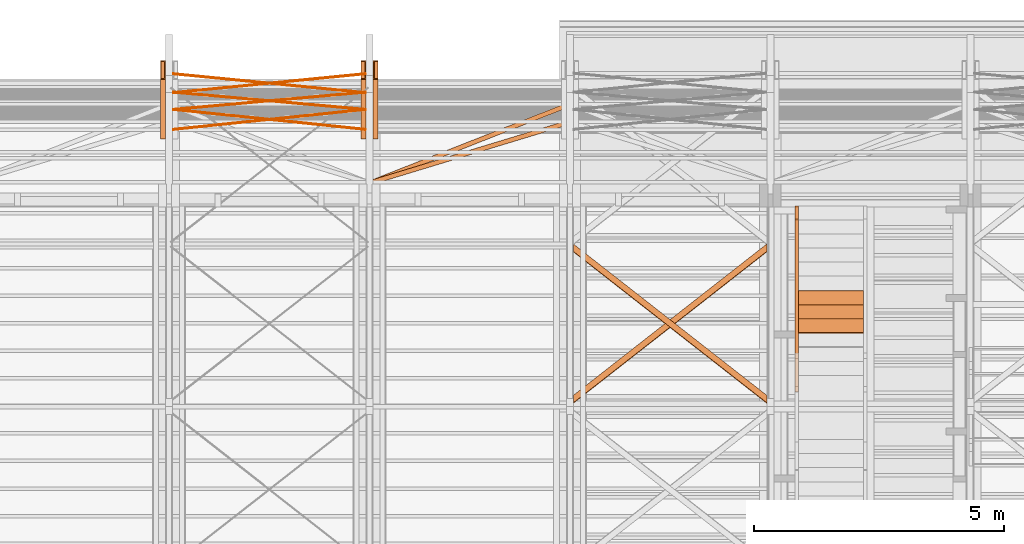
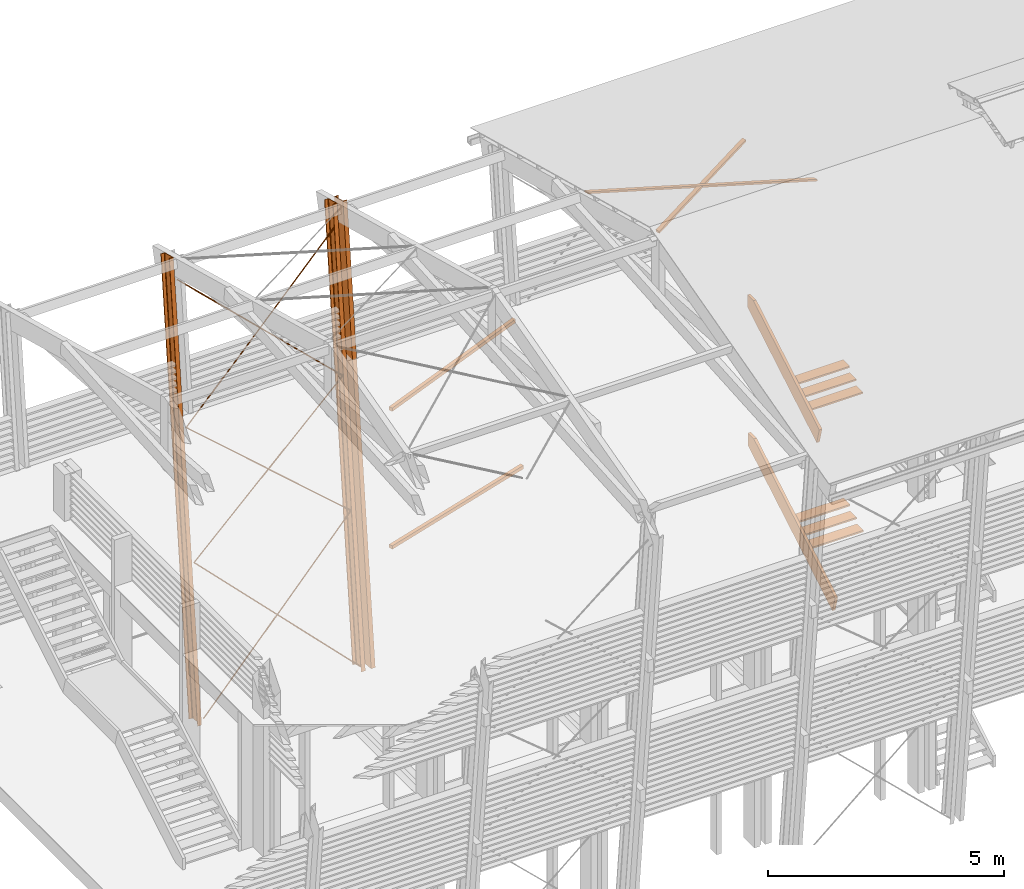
# One storey, part 40 of 48: 21 proxies.
"""IFC2X3 building model written with IfcOpenShell, lengths in metres."""

from ifc_helpers import new_model, si_unit, direction, frame, origin_with_axes, place, context, subcontext, project, spatial, faceted_brep, material, element, save


model = new_model("IFC2X3")

# Units and contexts
model_context = context("Model", 3, precision=1e-06, world=origin_with_axes(), true_north=direction((0.0, 1.0, 0.0)))
body_context = subcontext(model_context, "Body", "Model", "MODEL_VIEW")
ifc_project = project(units=[si_unit("LENGTHUNIT", "METRE"), si_unit("AREAUNIT", "SQUARE_METRE"), si_unit("VOLUMEUNIT", "CUBIC_METRE"), si_unit("PLANEANGLEUNIT", "RADIAN")], contexts=[model_context])

# Site, building, storey
site_placement = place(None, origin_with_axes())
site = spatial("IfcSite", under=ifc_project, at=site_placement, CompositionType="ELEMENT")
building_placement = place(site_placement, origin_with_axes())
building = spatial("IfcBuilding", under=site, at=building_placement, Name="Building 1", CompositionType="ELEMENT")
storey_placement = place(building_placement, origin_with_axes())
storey = spatial("IfcBuildingStorey", under=building, at=storey_placement, Name="Storey 1", CompositionType="ELEMENT", Elevation=0.0)

# Proxies
ifc_material_1 = material(Name="Acier")
proxy_1_placement = place(storey_placement, frame((29.5737441, -183.677965, 0.3), z_axis=(-0.7050562, 0.0741265, 0.7052666), x_axis=(0.7091514, 0.0736984, 0.7011938)))
element("IfcBuildingElementProxy", 1, at=proxy_1_placement, inside=storey, material=ifc_material_1, Name="CVLP", context=body_context, shape_type="Brep", body=[
    faceted_brep([(5.4036414, 0.0093969, -0.0034202), (0.0, 0.01, 0.0), (5.4036414, 0.01, 0.0), (0.0, 0.0093969, 0.0034202), (5.4036414, 0.0093969, 0.0034202), (0.0, 0.0076604, 0.0064279), (5.4036414, 0.0076604, 0.0064279), (0.0, 0.005, 0.0086603), (5.4036414, 0.005, 0.0086603), (0.0, 0.0017365, 0.0098481), (5.4036414, 0.0017365, 0.0098481), (0.0, -0.0017365, 0.0098481), (5.4036414, -0.0017365, 0.0098481), (0.0, -0.005, 0.0086603), (5.4036414, -0.005, 0.0086603), (0.0, -0.0076604, 0.0064279), (5.4036414, -0.0076604, 0.0064279), (0.0, -0.0093969, 0.0034202), (5.4036414, -0.0093969, 0.0034202), (0.0, -0.01, 0.0), (5.4036414, -0.01, 0.0), (0.0, -0.0093969, -0.0034202), (5.4036414, -0.0093969, -0.0034202), (0.0, -0.0076604, -0.0064279), (5.4036414, -0.0076604, -0.0064279), (0.0, -0.005, -0.0086603), (5.4036414, -0.005, -0.0086603), (0.0, -0.0017365, -0.0098481), (5.4036414, -0.0017365, -0.0098481), (0.0, 0.0017365, -0.0098481), (5.4036414, 0.0017365, -0.0098481), (0.0, 0.005, -0.0086603), (5.4036414, 0.005, -0.0086603), (0.0, 0.0076604, -0.0064279), (5.4036414, 0.0076604, -0.0064279), (0.0, 0.0093969, -0.0034202)], [[[0, 1, 2]], [[2, 1, 3]], [[2, 3, 4]], [[4, 3, 5]], [[4, 5, 6]], [[6, 5, 7]], [[6, 7, 8]], [[8, 7, 9]], [[8, 9, 10]], [[10, 9, 11]], [[10, 11, 12]], [[12, 11, 13]], [[12, 13, 14]], [[14, 13, 15]], [[14, 15, 16]], [[16, 15, 17]], [[16, 17, 18]], [[18, 17, 19]], [[18, 19, 20]], [[20, 19, 21]], [[20, 21, 22]], [[22, 21, 23]], [[22, 23, 24]], [[24, 23, 25]], [[24, 25, 26]], [[26, 25, 27]], [[26, 27, 28]], [[28, 27, 29]], [[28, 29, 30]], [[30, 29, 31]], [[30, 31, 32]], [[32, 31, 33]], [[32, 33, 34]], [[34, 33, 35]], [[34, 35, 0]], [[0, 35, 1]], [[10, 12, 8]], [[8, 12, 14]], [[8, 14, 6]], [[6, 14, 16]], [[6, 16, 4]], [[4, 16, 18]], [[4, 18, 2]], [[2, 18, 20]], [[2, 20, 0]], [[0, 20, 22]], [[0, 22, 34]], [[34, 22, 24]], [[34, 24, 32]], [[32, 24, 26]], [[32, 26, 30]], [[30, 26, 28]], [[29, 27, 31]], [[31, 27, 25]], [[31, 25, 33]], [[33, 25, 23]], [[33, 23, 35]], [[35, 23, 21]], [[35, 21, 1]], [[1, 21, 19]], [[1, 19, 3]], [[3, 19, 17]], [[3, 17, 5]], [[5, 17, 15]], [[5, 15, 7]], [[7, 15, 13]], [[7, 13, 9]], [[9, 13, 11]]]),
])
proxy_2_placement = place(storey_placement, frame((33.4057433, -182.9449284, 7.3700453), z_axis=(0.6859491, 0.0760601, 0.7236634), x_axis=(-0.7276496, 0.0717012, 0.6821914)))
element("IfcBuildingElementProxy", 2, at=proxy_2_placement, inside=storey, material=ifc_material_1, Name="CVLP", context=body_context, shape_type="Brep", body=[
    faceted_brep([(5.2662712, -0.0093969, 0.0034202), (0.0, -0.01, 0.0), (5.2662712, -0.01, 0.0), (0.0, -0.0093969, -0.0034202), (5.2662712, -0.0093969, -0.0034202), (0.0, -0.0076604, -0.0064279), (5.2662712, -0.0076604, -0.0064279), (0.0, -0.005, -0.0086603), (5.2662712, -0.005, -0.0086603), (0.0, -0.0017365, -0.0098481), (5.2662712, -0.0017365, -0.0098481), (0.0, 0.0017365, -0.0098481), (5.2662712, 0.0017365, -0.0098481), (0.0, 0.005, -0.0086603), (5.2662712, 0.005, -0.0086603), (0.0, 0.0076604, -0.0064279), (5.2662712, 0.0076604, -0.0064279), (0.0, 0.0093969, -0.0034202), (5.2662712, 0.0093969, -0.0034202), (0.0, 0.01, 0.0), (5.2662712, 0.01, 0.0), (0.0, 0.0093969, 0.0034202), (5.2662712, 0.0093969, 0.0034202), (0.0, 0.0076604, 0.0064279), (5.2662712, 0.0076604, 0.0064279), (0.0, 0.005, 0.0086603), (5.2662712, 0.005, 0.0086603), (0.0, 0.0017365, 0.0098481), (5.2662712, 0.0017365, 0.0098481), (0.0, -0.0017365, 0.0098481), (5.2662712, -0.0017365, 0.0098481), (0.0, -0.005, 0.0086603), (5.2662712, -0.005, 0.0086603), (0.0, -0.0076604, 0.0064279), (5.2662712, -0.0076604, 0.0064279), (0.0, -0.0093969, 0.0034202)], [[[0, 1, 2]], [[2, 1, 3]], [[2, 3, 4]], [[4, 3, 5]], [[4, 5, 6]], [[6, 5, 7]], [[6, 7, 8]], [[8, 7, 9]], [[8, 9, 10]], [[10, 9, 11]], [[10, 11, 12]], [[12, 11, 13]], [[12, 13, 14]], [[14, 13, 15]], [[14, 15, 16]], [[16, 15, 17]], [[16, 17, 18]], [[18, 17, 19]], [[18, 19, 20]], [[20, 19, 21]], [[20, 21, 22]], [[22, 21, 23]], [[22, 23, 24]], [[24, 23, 25]], [[24, 25, 26]], [[26, 25, 27]], [[26, 27, 28]], [[28, 27, 29]], [[28, 29, 30]], [[30, 29, 31]], [[30, 31, 32]], [[32, 31, 33]], [[32, 33, 34]], [[34, 33, 35]], [[34, 35, 0]], [[0, 35, 1]], [[10, 12, 8]], [[8, 12, 14]], [[8, 14, 6]], [[6, 14, 16]], [[6, 16, 4]], [[4, 16, 18]], [[4, 18, 2]], [[2, 18, 20]], [[2, 20, 0]], [[0, 20, 22]], [[0, 22, 34]], [[34, 22, 24]], [[34, 24, 32]], [[32, 24, 26]], [[32, 26, 30]], [[30, 26, 28]], [[29, 27, 31]], [[31, 27, 25]], [[31, 25, 33]], [[33, 25, 23]], [[33, 23, 35]], [[35, 23, 21]], [[35, 21, 1]], [[1, 21, 19]], [[1, 19, 3]], [[3, 19, 17]], [[3, 17, 5]], [[5, 17, 15]], [[5, 15, 7]], [[7, 15, 13]], [[7, 13, 9]], [[9, 13, 11]]]),
])
proxy_3_placement = place(storey_placement, frame((29.5737433, -183.279725, 4.089), z_axis=(-0.6523288, 0.0792259, 0.753784), x_axis=(0.7579361, 0.0681869, 0.6487553)))
element("IfcBuildingElementProxy", 3, at=proxy_3_placement, inside=storey, material=ifc_material_1, Name="CVLP", context=body_context, shape_type="Brep", body=[
    faceted_brep([(5.0558353, -0.0093969, 0.0034202), (0.0, -0.01, 0.0), (5.0558353, -0.01, 0.0), (0.0, -0.0093969, -0.0034202), (5.0558353, -0.0093969, -0.0034202), (0.0, -0.0076604, -0.0064279), (5.0558353, -0.0076604, -0.0064279), (0.0, -0.005, -0.0086603), (5.0558353, -0.005, -0.0086603), (0.0, -0.0017365, -0.0098481), (5.0558353, -0.0017365, -0.0098481), (0.0, 0.0017365, -0.0098481), (5.0558353, 0.0017365, -0.0098481), (0.0, 0.005, -0.0086603), (5.0558353, 0.005, -0.0086603), (0.0, 0.0076604, -0.0064279), (5.0558353, 0.0076604, -0.0064279), (0.0, 0.0093969, -0.0034202), (5.0558353, 0.0093969, -0.0034202), (0.0, 0.01, 0.0), (5.0558353, 0.01, 0.0), (0.0, 0.0093969, 0.0034202), (5.0558353, 0.0093969, 0.0034202), (0.0, 0.0076604, 0.0064279), (5.0558353, 0.0076604, 0.0064279), (0.0, 0.005, 0.0086603), (5.0558353, 0.005, 0.0086603), (0.0, 0.0017365, 0.0098481), (5.0558353, 0.0017365, 0.0098481), (0.0, -0.0017365, 0.0098481), (5.0558353, -0.0017365, 0.0098481), (0.0, -0.005, 0.0086603), (5.0558353, -0.005, 0.0086603), (0.0, -0.0076604, 0.0064279), (5.0558353, -0.0076604, 0.0064279), (0.0, -0.0093969, 0.0034202)], [[[0, 1, 2]], [[2, 1, 3]], [[2, 3, 4]], [[4, 3, 5]], [[4, 5, 6]], [[6, 5, 7]], [[6, 7, 8]], [[8, 7, 9]], [[8, 9, 10]], [[10, 9, 11]], [[10, 11, 12]], [[12, 11, 13]], [[12, 13, 14]], [[14, 13, 15]], [[14, 15, 16]], [[16, 15, 17]], [[16, 17, 18]], [[18, 17, 19]], [[18, 19, 20]], [[20, 19, 21]], [[20, 21, 22]], [[22, 21, 23]], [[22, 23, 24]], [[24, 23, 25]], [[24, 25, 26]], [[26, 25, 27]], [[26, 27, 28]], [[28, 27, 29]], [[28, 29, 30]], [[30, 29, 31]], [[30, 31, 32]], [[32, 31, 33]], [[32, 33, 34]], [[34, 33, 35]], [[34, 35, 0]], [[0, 35, 1]], [[10, 12, 8]], [[8, 12, 14]], [[8, 14, 6]], [[6, 14, 16]], [[6, 16, 4]], [[4, 16, 18]], [[4, 18, 2]], [[2, 18, 20]], [[2, 20, 0]], [[0, 20, 22]], [[0, 22, 34]], [[34, 22, 24]], [[34, 24, 32]], [[32, 24, 26]], [[32, 26, 30]], [[30, 26, 28]], [[29, 27, 31]], [[31, 27, 25]], [[31, 25, 33]], [[33, 25, 23]], [[33, 23, 35]], [[35, 23, 21]], [[35, 21, 1]], [[1, 21, 19]], [[1, 19, 3]], [[3, 19, 17]], [[3, 17, 5]], [[5, 17, 15]], [[5, 15, 7]], [[7, 15, 13]], [[7, 13, 9]], [[9, 13, 11]]]),
])
proxy_4_placement = place(storey_placement, frame((33.4057433, -183.677965, 0.3), z_axis=(0.7050562, 0.0741265, 0.7052666), x_axis=(-0.7091514, 0.0736984, 0.7011938)))
element("IfcBuildingElementProxy", 4, at=proxy_4_placement, inside=storey, material=ifc_material_1, Name="CVLP", context=body_context, shape_type="Brep", body=[
    faceted_brep([(5.4036414, -0.0093969, 0.0034202), (0.0, -0.01, 0.0), (5.4036414, -0.01, 0.0), (0.0, -0.0093969, -0.0034202), (5.4036414, -0.0093969, -0.0034202), (0.0, -0.0076604, -0.0064279), (5.4036414, -0.0076604, -0.0064279), (0.0, -0.005, -0.0086603), (5.4036414, -0.005, -0.0086603), (0.0, -0.0017365, -0.0098481), (5.4036414, -0.0017365, -0.0098481), (0.0, 0.0017365, -0.0098481), (5.4036414, 0.0017365, -0.0098481), (0.0, 0.005, -0.0086603), (5.4036414, 0.005, -0.0086603), (0.0, 0.0076604, -0.0064279), (5.4036414, 0.0076604, -0.0064279), (0.0, 0.0093969, -0.0034202), (5.4036414, 0.0093969, -0.0034202), (0.0, 0.01, 0.0), (5.4036414, 0.01, 0.0), (0.0, 0.0093969, 0.0034202), (5.4036414, 0.0093969, 0.0034202), (0.0, 0.0076604, 0.0064279), (5.4036414, 0.0076604, 0.0064279), (0.0, 0.005, 0.0086603), (5.4036414, 0.005, 0.0086603), (0.0, 0.0017365, 0.0098481), (5.4036414, 0.0017365, 0.0098481), (0.0, -0.0017365, 0.0098481), (5.4036414, -0.0017365, 0.0098481), (0.0, -0.005, 0.0086603), (5.4036414, -0.005, 0.0086603), (0.0, -0.0076604, 0.0064279), (5.4036414, -0.0076604, 0.0064279), (0.0, -0.0093969, 0.0034202)], [[[0, 1, 2]], [[2, 1, 3]], [[2, 3, 4]], [[4, 3, 5]], [[4, 5, 6]], [[6, 5, 7]], [[6, 7, 8]], [[8, 7, 9]], [[8, 9, 10]], [[10, 9, 11]], [[10, 11, 12]], [[12, 11, 13]], [[12, 13, 14]], [[14, 13, 15]], [[14, 15, 16]], [[16, 15, 17]], [[16, 17, 18]], [[18, 17, 19]], [[18, 19, 20]], [[20, 19, 21]], [[20, 21, 22]], [[22, 21, 23]], [[22, 23, 24]], [[24, 23, 25]], [[24, 25, 26]], [[26, 25, 27]], [[26, 27, 28]], [[28, 27, 29]], [[28, 29, 30]], [[30, 29, 31]], [[30, 31, 32]], [[32, 31, 33]], [[32, 33, 34]], [[34, 33, 35]], [[34, 35, 0]], [[0, 35, 1]], [[10, 12, 8]], [[8, 12, 14]], [[8, 14, 6]], [[6, 14, 16]], [[6, 16, 4]], [[4, 16, 18]], [[4, 18, 2]], [[2, 18, 20]], [[2, 20, 0]], [[0, 20, 22]], [[0, 22, 34]], [[34, 22, 24]], [[34, 24, 32]], [[32, 24, 26]], [[32, 26, 30]], [[30, 26, 28]], [[29, 27, 31]], [[31, 27, 25]], [[31, 25, 33]], [[33, 25, 23]], [[33, 23, 35]], [[35, 23, 21]], [[35, 21, 1]], [[1, 21, 19]], [[1, 19, 3]], [[3, 19, 17]], [[3, 17, 5]], [[5, 17, 15]], [[5, 15, 7]], [[7, 15, 13]], [[7, 13, 9]], [[9, 13, 11]]]),
])
proxy_5_placement = place(storey_placement, frame((29.5737441, -182.9449284, 7.3700453), z_axis=(-0.6859491, 0.0760601, 0.7236634), x_axis=(0.7276496, 0.0717012, 0.6821914)))
element("IfcBuildingElementProxy", 5, at=proxy_5_placement, inside=storey, material=ifc_material_1, Name="CVLP", context=body_context, shape_type="Brep", body=[
    faceted_brep([(5.2662712, 0.0093969, -0.0034202), (0.0, 0.01, 0.0), (5.2662712, 0.01, 0.0), (0.0, 0.0093969, 0.0034202), (5.2662712, 0.0093969, 0.0034202), (0.0, 0.0076604, 0.0064279), (5.2662712, 0.0076604, 0.0064279), (0.0, 0.005, 0.0086603), (5.2662712, 0.005, 0.0086603), (0.0, 0.0017365, 0.0098481), (5.2662712, 0.0017365, 0.0098481), (0.0, -0.0017365, 0.0098481), (5.2662712, -0.0017365, 0.0098481), (0.0, -0.005, 0.0086603), (5.2662712, -0.005, 0.0086603), (0.0, -0.0076604, 0.0064279), (5.2662712, -0.0076604, 0.0064279), (0.0, -0.0093969, 0.0034202), (5.2662712, -0.0093969, 0.0034202), (0.0, -0.01, 0.0), (5.2662712, -0.01, 0.0), (0.0, -0.0093969, -0.0034202), (5.2662712, -0.0093969, -0.0034202), (0.0, -0.0076604, -0.0064279), (5.2662712, -0.0076604, -0.0064279), (0.0, -0.005, -0.0086603), (5.2662712, -0.005, -0.0086603), (0.0, -0.0017365, -0.0098481), (5.2662712, -0.0017365, -0.0098481), (0.0, 0.0017365, -0.0098481), (5.2662712, 0.0017365, -0.0098481), (0.0, 0.005, -0.0086603), (5.2662712, 0.005, -0.0086603), (0.0, 0.0076604, -0.0064279), (5.2662712, 0.0076604, -0.0064279), (0.0, 0.0093969, -0.0034202)], [[[0, 1, 2]], [[2, 1, 3]], [[2, 3, 4]], [[4, 3, 5]], [[4, 5, 6]], [[6, 5, 7]], [[6, 7, 8]], [[8, 7, 9]], [[8, 9, 10]], [[10, 9, 11]], [[10, 11, 12]], [[12, 11, 13]], [[12, 13, 14]], [[14, 13, 15]], [[14, 15, 16]], [[16, 15, 17]], [[16, 17, 18]], [[18, 17, 19]], [[18, 19, 20]], [[20, 19, 21]], [[20, 21, 22]], [[22, 21, 23]], [[22, 23, 24]], [[24, 23, 25]], [[24, 25, 26]], [[26, 25, 27]], [[26, 27, 28]], [[28, 27, 29]], [[28, 29, 30]], [[30, 29, 31]], [[30, 31, 32]], [[32, 31, 33]], [[32, 33, 34]], [[34, 33, 35]], [[34, 35, 0]], [[0, 35, 1]], [[10, 12, 8]], [[8, 12, 14]], [[8, 14, 6]], [[6, 14, 16]], [[6, 16, 4]], [[4, 16, 18]], [[4, 18, 2]], [[2, 18, 20]], [[2, 20, 0]], [[0, 20, 22]], [[0, 22, 34]], [[34, 22, 24]], [[34, 24, 32]], [[32, 24, 26]], [[32, 26, 30]], [[30, 26, 28]], [[29, 27, 31]], [[31, 27, 25]], [[31, 25, 33]], [[33, 25, 23]], [[33, 23, 35]], [[35, 23, 21]], [[35, 21, 1]], [[1, 21, 19]], [[1, 19, 3]], [[3, 19, 17]], [[3, 17, 5]], [[5, 17, 15]], [[5, 15, 7]], [[7, 15, 13]], [[7, 13, 9]], [[9, 13, 11]]]),
])
proxy_6_placement = place(storey_placement, frame((33.4057441, -183.279725, 4.089), z_axis=(0.6523288, 0.0792259, 0.753784), x_axis=(-0.7579361, 0.0681869, 0.6487553)))
element("IfcBuildingElementProxy", 6, at=proxy_6_placement, inside=storey, material=ifc_material_1, Name="CVLP", context=body_context, shape_type="Brep", body=[
    faceted_brep([(5.0558353, 0.0093969, -0.0034202), (0.0, 0.01, 0.0), (5.0558353, 0.01, 0.0), (0.0, 0.0093969, 0.0034202), (5.0558353, 0.0093969, 0.0034202), (0.0, 0.0076604, 0.0064279), (5.0558353, 0.0076604, 0.0064279), (0.0, 0.005, 0.0086603), (5.0558353, 0.005, 0.0086603), (0.0, 0.0017365, 0.0098481), (5.0558353, 0.0017365, 0.0098481), (0.0, -0.0017365, 0.0098481), (5.0558353, -0.0017365, 0.0098481), (0.0, -0.005, 0.0086603), (5.0558353, -0.005, 0.0086603), (0.0, -0.0076604, 0.0064279), (5.0558353, -0.0076604, 0.0064279), (0.0, -0.0093969, 0.0034202), (5.0558353, -0.0093969, 0.0034202), (0.0, -0.01, 0.0), (5.0558353, -0.01, 0.0), (0.0, -0.0093969, -0.0034202), (5.0558353, -0.0093969, -0.0034202), (0.0, -0.0076604, -0.0064279), (5.0558353, -0.0076604, -0.0064279), (0.0, -0.005, -0.0086603), (5.0558353, -0.005, -0.0086603), (0.0, -0.0017365, -0.0098481), (5.0558353, -0.0017365, -0.0098481), (0.0, 0.0017365, -0.0098481), (5.0558353, 0.0017365, -0.0098481), (0.0, 0.005, -0.0086603), (5.0558353, 0.005, -0.0086603), (0.0, 0.0076604, -0.0064279), (5.0558353, 0.0076604, -0.0064279), (0.0, 0.0093969, -0.0034202)], [[[0, 1, 2]], [[2, 1, 3]], [[2, 3, 4]], [[4, 3, 5]], [[4, 5, 6]], [[6, 5, 7]], [[6, 7, 8]], [[8, 7, 9]], [[8, 9, 10]], [[10, 9, 11]], [[10, 11, 12]], [[12, 11, 13]], [[12, 13, 14]], [[14, 13, 15]], [[14, 15, 16]], [[16, 15, 17]], [[16, 17, 18]], [[18, 17, 19]], [[18, 19, 20]], [[20, 19, 21]], [[20, 21, 22]], [[22, 21, 23]], [[22, 23, 24]], [[24, 23, 25]], [[24, 25, 26]], [[26, 25, 27]], [[26, 27, 28]], [[28, 27, 29]], [[28, 29, 30]], [[30, 29, 31]], [[30, 31, 32]], [[32, 31, 33]], [[32, 33, 34]], [[34, 33, 35]], [[34, 35, 0]], [[0, 35, 1]], [[10, 12, 8]], [[8, 12, 14]], [[8, 14, 6]], [[6, 14, 16]], [[6, 16, 4]], [[4, 16, 18]], [[4, 18, 2]], [[2, 18, 20]], [[2, 20, 0]], [[0, 20, 22]], [[0, 22, 34]], [[34, 22, 24]], [[34, 24, 32]], [[32, 24, 26]], [[32, 26, 30]], [[30, 26, 28]], [[29, 27, 31]], [[31, 27, 25]], [[31, 25, 33]], [[33, 25, 23]], [[33, 23, 35]], [[35, 23, 21]], [[35, 21, 1]], [[1, 21, 19]], [[1, 19, 3]], [[3, 19, 17]], [[3, 17, 5]], [[5, 17, 15]], [[5, 15, 7]], [[7, 15, 13]], [[7, 13, 9]], [[9, 13, 11]]]),
])
proxy_7_placement = place(storey_placement, frame((33.6107437, -182.4859924, 11.6408612), z_axis=(0.0, -0.9945219, 0.1045285), x_axis=(0.0, -0.1045285, -0.9945219)))
element("IfcBuildingElementProxy", 7, at=proxy_7_placement, inside=storey, material=ifc_material_1, Name="Poteau", context=body_context, shape_type="Brep", body=[
    faceted_brep([(0.0588262, 0.0506328, -0.181414), (0.0592057, 0.051, -0.18381), (0.0579402, 0.0433995, -0.17582), (0.0601861, 0.051, -0.19), (0.0574199, -0.022299, -0.172535), (0.0601861, -0.051, -0.19), (0.0572658, -0.0270483, -0.1715622), (0.0568935, -0.0312883, -0.1692116), (0.0045382, -0.0367655, 0.161347), (0.0052972, -0.0375, 0.156555), (0.0, -0.051, 0.19), (0.0548889, -0.0375, -0.156555), (0.0556479, -0.0367655, -0.161347), (0.0563372, -0.0346296, -0.165699), (0.0009804, 0.051, 0.18381), (0.0022459, 0.0433995, 0.17582), (0.0, 0.051, 0.19), (0.0027662, -0.022299, 0.172535), (0.0029203, -0.0270483, 0.1715622), (0.0032926, -0.0312883, 0.1692116), (0.0013599, 0.0506328, 0.181414), (0.0017045, 0.0495648, 0.179238), (0.0019827, 0.0478941, 0.1774817), (0.0021689, 0.0457742, 0.1763064), (0.0038489, -0.0346296, 0.165699), (0.0580172, 0.0457742, -0.1763064), (0.0582034, 0.0478941, -0.1774817), (0.0584816, 0.0495648, -0.179238), (11.420672, 0.0433995, 0.17582), (11.420672, 0.0457742, 0.1763064), (11.420672, 0.0478941, 0.1774817), (11.420672, 0.0495648, 0.179238), (11.420672, 0.0506328, 0.181414), (11.420672, 0.051, 0.18381), (11.420672, 0.051, 0.19), (11.420672, -0.051, 0.19), (11.420672, -0.051, -0.19), (11.420672, 0.051, -0.19), (11.420672, 0.051, -0.18381), (11.420672, 0.0506328, -0.181414), (11.420672, 0.0495648, -0.179238), (11.420672, 0.0478941, -0.1774817), (11.420672, 0.0457742, -0.1763064), (11.420672, 0.0433995, -0.17582), (11.420672, -0.022299, -0.172535), (11.420672, -0.0270483, -0.1715622), (11.420672, -0.0312883, -0.1692116), (11.420672, -0.0346296, -0.165699), (11.420672, -0.0367655, -0.161347), (11.420672, -0.0375, -0.156555), (11.420672, -0.0375, 0.156555), (11.420672, -0.0367655, 0.161347), (11.420672, -0.0346296, 0.165699), (11.420672, -0.0312883, 0.1692116), (11.420672, -0.0270483, 0.1715622), (11.420672, -0.022299, 0.172535)], [[[0, 1, 2]], [[2, 1, 3]], [[2, 3, 4]], [[4, 3, 5]], [[4, 5, 6]], [[6, 5, 7]], [[8, 9, 10]], [[10, 9, 11]], [[10, 11, 5]], [[5, 11, 12]], [[5, 12, 13]], [[14, 15, 16]], [[16, 15, 17]], [[16, 17, 10]], [[10, 17, 18]], [[10, 18, 19]], [[14, 20, 15]], [[15, 20, 21]], [[15, 21, 22]], [[22, 23, 15]], [[19, 24, 10]], [[10, 24, 8]], [[13, 7, 5]], [[25, 26, 2]], [[2, 26, 27]], [[2, 27, 0]], [[15, 23, 28]], [[28, 23, 29]], [[23, 22, 29]], [[29, 22, 30]], [[22, 21, 30]], [[30, 21, 31]], [[21, 20, 31]], [[31, 20, 32]], [[20, 14, 32]], [[32, 14, 33]], [[16, 34, 14]], [[14, 34, 33]], [[10, 5, 35]], [[35, 5, 36]], [[5, 3, 36]], [[36, 3, 37]], [[1, 38, 3]], [[3, 38, 37]], [[1, 0, 38]], [[38, 0, 39]], [[0, 27, 39]], [[39, 27, 40]], [[27, 26, 40]], [[40, 26, 41]], [[26, 25, 41]], [[41, 25, 42]], [[25, 2, 42]], [[42, 2, 43]], [[4, 44, 2]], [[2, 44, 43]], [[4, 6, 44]], [[44, 6, 45]], [[6, 7, 45]], [[45, 7, 46]], [[7, 13, 46]], [[46, 13, 47]], [[13, 12, 47]], [[47, 12, 48]], [[12, 11, 48]], [[48, 11, 49]], [[9, 50, 11]], [[11, 50, 49]], [[9, 8, 50]], [[50, 8, 51]], [[8, 24, 51]], [[51, 24, 52]], [[24, 19, 52]], [[52, 19, 53]], [[19, 18, 53]], [[53, 18, 54]], [[18, 17, 54]], [[54, 17, 55]], [[15, 28, 17]], [[17, 28, 55]], [[35, 34, 10]], [[10, 34, 16]], [[48, 49, 36]], [[36, 49, 50]], [[36, 50, 35]], [[35, 50, 51]], [[35, 51, 52]], [[41, 42, 38]], [[38, 42, 43]], [[38, 43, 37]], [[37, 43, 44]], [[37, 44, 36]], [[36, 44, 45]], [[36, 45, 46]], [[39, 40, 38]], [[38, 40, 41]], [[46, 47, 36]], [[36, 47, 48]], [[52, 53, 35]], [[35, 53, 54]], [[35, 54, 55]], [[35, 55, 34]], [[34, 55, 28]], [[34, 28, 33]], [[33, 28, 32]], [[29, 30, 28]], [[28, 30, 31]], [[28, 31, 32]]]),
])
proxy_8_placement = place(storey_placement, frame((33.3687437, -182.4859924, 11.6408612), z_axis=(0.0, -0.9945219, 0.1045285), x_axis=(0.0, -0.1045285, -0.9945219)))
element("IfcBuildingElementProxy", 8, at=proxy_8_placement, inside=storey, material=ifc_material_1, Name="Poteau", context=body_context, shape_type="Brep", body=[
    faceted_brep([(0.0563372, 0.0346296, -0.165699), (0.0556479, 0.0367655, -0.161347), (0.0601861, 0.051, -0.19), (0.0548889, 0.0375, -0.156555), (0.0, 0.051, 0.19), (0.0052972, 0.0375, 0.156555), (0.0045382, 0.0367655, 0.161347), (0.0592057, -0.051, -0.18381), (0.0579402, -0.0433995, -0.17582), (0.0601861, -0.051, -0.19), (0.0574199, 0.022299, -0.172535), (0.0572658, 0.0270483, -0.1715622), (0.0568935, 0.0312883, -0.1692116), (0.0588262, -0.0506328, -0.181414), (0.0584816, -0.0495648, -0.179238), (0.0582034, -0.0478941, -0.1774817), (0.0580172, -0.0457742, -0.1763064), (0.0038489, 0.0346296, 0.165699), (0.0032926, 0.0312883, 0.1692116), (0.0029203, 0.0270483, 0.1715622), (0.0027662, 0.022299, 0.172535), (0.0, -0.051, 0.19), (0.0022459, -0.0433995, 0.17582), (0.0009804, -0.051, 0.18381), (0.0021689, -0.0457742, 0.1763064), (0.0019827, -0.0478941, 0.1774817), (0.0017045, -0.0495648, 0.179238), (0.0013599, -0.0506328, 0.181414), (11.420672, 0.0375, -0.156555), (11.420672, 0.0367655, -0.161347), (11.420672, 0.0346296, -0.165699), (11.420672, 0.0312883, -0.1692116), (11.420672, 0.0270483, -0.1715622), (11.420672, 0.022299, -0.172535), (11.420672, -0.0433995, -0.17582), (11.420672, -0.0457742, -0.1763064), (11.420672, -0.0478941, -0.1774817), (11.420672, -0.0495648, -0.179238), (11.420672, -0.0506328, -0.181414), (11.420672, -0.051, -0.18381), (11.420672, -0.051, -0.19), (11.420672, 0.051, -0.19), (11.420672, 0.051, 0.19), (11.420672, -0.051, 0.19), (11.420672, -0.051, 0.18381), (11.420672, -0.0506328, 0.181414), (11.420672, -0.0495648, 0.179238), (11.420672, -0.0478941, 0.1774817), (11.420672, -0.0457742, 0.1763064), (11.420672, -0.0433995, 0.17582), (11.420672, 0.022299, 0.172535), (11.420672, 0.0270483, 0.1715622), (11.420672, 0.0312883, 0.1692116), (11.420672, 0.0346296, 0.165699), (11.420672, 0.0367655, 0.161347), (11.420672, 0.0375, 0.156555)], [[[0, 1, 2]], [[2, 1, 3]], [[2, 3, 4]], [[4, 3, 5]], [[4, 5, 6]], [[7, 8, 9]], [[9, 8, 10]], [[9, 10, 2]], [[2, 10, 11]], [[2, 11, 12]], [[7, 13, 8]], [[8, 13, 14]], [[8, 14, 15]], [[15, 16, 8]], [[12, 0, 2]], [[6, 17, 4]], [[4, 17, 18]], [[4, 18, 19]], [[19, 20, 4]], [[4, 20, 21]], [[20, 22, 21]], [[21, 22, 23]], [[24, 25, 22]], [[22, 25, 26]], [[22, 26, 27]], [[27, 23, 22]], [[3, 1, 28]], [[28, 1, 29]], [[1, 0, 29]], [[29, 0, 30]], [[0, 12, 30]], [[30, 12, 31]], [[12, 11, 31]], [[31, 11, 32]], [[11, 10, 32]], [[32, 10, 33]], [[10, 8, 33]], [[33, 8, 34]], [[8, 16, 34]], [[34, 16, 35]], [[16, 15, 35]], [[35, 15, 36]], [[15, 14, 36]], [[36, 14, 37]], [[14, 13, 37]], [[37, 13, 38]], [[13, 7, 38]], [[38, 7, 39]], [[7, 9, 39]], [[39, 9, 40]], [[9, 2, 40]], [[40, 2, 41]], [[4, 42, 2]], [[2, 42, 41]], [[43, 42, 21]], [[21, 42, 4]], [[21, 23, 43]], [[43, 23, 44]], [[23, 27, 44]], [[44, 27, 45]], [[27, 26, 45]], [[45, 26, 46]], [[26, 25, 46]], [[46, 25, 47]], [[25, 24, 47]], [[47, 24, 48]], [[24, 22, 48]], [[48, 22, 49]], [[22, 20, 49]], [[49, 20, 50]], [[20, 19, 50]], [[50, 19, 51]], [[19, 18, 51]], [[51, 18, 52]], [[18, 17, 52]], [[52, 17, 53]], [[17, 6, 53]], [[53, 6, 54]], [[6, 5, 54]], [[54, 5, 55]], [[5, 3, 55]], [[55, 3, 28]], [[53, 54, 42]], [[42, 54, 55]], [[42, 55, 41]], [[41, 55, 28]], [[41, 28, 29]], [[44, 49, 43]], [[43, 49, 50]], [[43, 50, 42]], [[42, 50, 51]], [[42, 51, 52]], [[44, 45, 49]], [[49, 45, 46]], [[49, 46, 47]], [[47, 48, 49]], [[52, 53, 42]], [[29, 30, 41]], [[41, 30, 31]], [[41, 31, 32]], [[32, 33, 41]], [[41, 33, 40]], [[33, 34, 40]], [[40, 34, 39]], [[34, 35, 39]], [[39, 35, 36]], [[39, 36, 37]], [[37, 38, 39]]]),
])
proxy_9_placement = place(storey_placement, frame((29.3687437, -182.4859924, 11.6408612), z_axis=(0.0, -0.9945219, 0.1045285), x_axis=(0.0, -0.1045285, -0.9945219)))
element("IfcBuildingElementProxy", 9, at=proxy_9_placement, inside=storey, material=ifc_material_1, Name="Poteau", context=body_context, shape_type="Brep", body=[
    faceted_brep([(0.0563372, 0.0346296, -0.165699), (0.0556479, 0.0367655, -0.161347), (0.0601861, 0.051, -0.19), (0.0548889, 0.0375, -0.156555), (0.0, 0.051, 0.19), (0.0052972, 0.0375, 0.156555), (0.0045382, 0.0367655, 0.161347), (0.0592057, -0.051, -0.18381), (0.0579402, -0.0433995, -0.17582), (0.0601861, -0.051, -0.19), (0.0574199, 0.022299, -0.172535), (0.0572658, 0.0270483, -0.1715622), (0.0568935, 0.0312883, -0.1692116), (0.0588262, -0.0506328, -0.181414), (0.0584816, -0.0495648, -0.179238), (0.0582034, -0.0478941, -0.1774817), (0.0580172, -0.0457742, -0.1763064), (0.0038489, 0.0346296, 0.165699), (0.0032926, 0.0312883, 0.1692116), (0.0029203, 0.0270483, 0.1715622), (0.0027662, 0.022299, 0.172535), (0.0, -0.051, 0.19), (0.0022459, -0.0433995, 0.17582), (0.0009804, -0.051, 0.18381), (0.0021689, -0.0457742, 0.1763064), (0.0019827, -0.0478941, 0.1774817), (0.0017045, -0.0495648, 0.179238), (0.0013599, -0.0506328, 0.181414), (11.420672, 0.0375, -0.156555), (11.420672, 0.0367655, -0.161347), (11.420672, 0.0346296, -0.165699), (11.420672, 0.0312883, -0.1692116), (11.420672, 0.0270483, -0.1715622), (11.420672, 0.022299, -0.172535), (11.420672, -0.0433995, -0.17582), (11.420672, -0.0457742, -0.1763064), (11.420672, -0.0478941, -0.1774817), (11.420672, -0.0495648, -0.179238), (11.420672, -0.0506328, -0.181414), (11.420672, -0.051, -0.18381), (11.420672, -0.051, -0.19), (11.420672, 0.051, -0.19), (11.420672, 0.051, 0.19), (11.420672, -0.051, 0.19), (11.420672, -0.051, 0.18381), (11.420672, -0.0506328, 0.181414), (11.420672, -0.0495648, 0.179238), (11.420672, -0.0478941, 0.1774817), (11.420672, -0.0457742, 0.1763064), (11.420672, -0.0433995, 0.17582), (11.420672, 0.022299, 0.172535), (11.420672, 0.0270483, 0.1715622), (11.420672, 0.0312883, 0.1692116), (11.420672, 0.0346296, 0.165699), (11.420672, 0.0367655, 0.161347), (11.420672, 0.0375, 0.156555)], [[[0, 1, 2]], [[2, 1, 3]], [[2, 3, 4]], [[4, 3, 5]], [[4, 5, 6]], [[7, 8, 9]], [[9, 8, 10]], [[9, 10, 2]], [[2, 10, 11]], [[2, 11, 12]], [[7, 13, 8]], [[8, 13, 14]], [[8, 14, 15]], [[15, 16, 8]], [[12, 0, 2]], [[6, 17, 4]], [[4, 17, 18]], [[4, 18, 19]], [[19, 20, 4]], [[4, 20, 21]], [[20, 22, 21]], [[21, 22, 23]], [[24, 25, 22]], [[22, 25, 26]], [[22, 26, 27]], [[27, 23, 22]], [[3, 1, 28]], [[28, 1, 29]], [[1, 0, 29]], [[29, 0, 30]], [[0, 12, 30]], [[30, 12, 31]], [[12, 11, 31]], [[31, 11, 32]], [[11, 10, 32]], [[32, 10, 33]], [[10, 8, 33]], [[33, 8, 34]], [[8, 16, 34]], [[34, 16, 35]], [[16, 15, 35]], [[35, 15, 36]], [[15, 14, 36]], [[36, 14, 37]], [[14, 13, 37]], [[37, 13, 38]], [[13, 7, 38]], [[38, 7, 39]], [[7, 9, 39]], [[39, 9, 40]], [[9, 2, 40]], [[40, 2, 41]], [[4, 42, 2]], [[2, 42, 41]], [[43, 42, 21]], [[21, 42, 4]], [[21, 23, 43]], [[43, 23, 44]], [[23, 27, 44]], [[44, 27, 45]], [[27, 26, 45]], [[45, 26, 46]], [[26, 25, 46]], [[46, 25, 47]], [[25, 24, 47]], [[47, 24, 48]], [[24, 22, 48]], [[48, 22, 49]], [[22, 20, 49]], [[49, 20, 50]], [[20, 19, 50]], [[50, 19, 51]], [[19, 18, 51]], [[51, 18, 52]], [[18, 17, 52]], [[52, 17, 53]], [[17, 6, 53]], [[53, 6, 54]], [[6, 5, 54]], [[54, 5, 55]], [[5, 3, 55]], [[55, 3, 28]], [[53, 54, 42]], [[42, 54, 55]], [[42, 55, 41]], [[41, 55, 28]], [[41, 28, 29]], [[44, 49, 43]], [[43, 49, 50]], [[43, 50, 42]], [[42, 50, 51]], [[42, 51, 52]], [[44, 45, 49]], [[49, 45, 46]], [[49, 46, 47]], [[47, 48, 49]], [[52, 53, 42]], [[29, 30, 41]], [[41, 30, 31]], [[41, 31, 32]], [[32, 33, 41]], [[41, 33, 40]], [[33, 34, 40]], [[40, 34, 39]], [[34, 35, 39]], [[39, 35, 36]], [[39, 36, 37]], [[37, 38, 39]]]),
])
ifc_material_2 = material(Name="Moabi")
for number, where, z_axis, x_axis, name in (
    (10, (42.6997437, -187.3064881, 6.49), (0.0, 1.0, 0.0), (0.0, 0.0, 1.0), "marche"),
    (11, (42.6997437, -187.5864881, 6.325), (0.0, 1.0, 0.0), (0.0, 0.0, 1.0), "marche"),
):
    element("IfcBuildingElementProxy", number, at=place(storey_placement, frame(where, z_axis=z_axis, x_axis=x_axis)), inside=storey, material=ifc_material_2, Name=name, context=body_context, shape_type="Brep", body=[
        faceted_brep([(0.04, 0.65, 0.14), (0.04, 0.65, -0.14), (0.0, 0.65, -0.14), (0.0, 0.65, 0.14), (0.04, -0.65, -0.14), (0.0, -0.65, -0.14), (0.04, -0.65, 0.14), (0.0, -0.65, 0.14)], [[[0, 1, 2, 3]], [[1, 4, 5, 2]], [[4, 6, 7, 5]], [[6, 0, 3, 7]], [[1, 0, 6, 4]], [[7, 3, 2, 5]]]),
    ])
proxy_10_placement = place(storey_placement, frame((43.3497437, -187.0264881, 6.675), z_axis=(0.0, 1.0, 0.0), x_axis=(-1.0, 0.0, 0.0)))
element("IfcBuildingElementProxy", 12, at=proxy_10_placement, inside=storey, material=ifc_material_2, Name="marche", context=body_context, shape_type="Brep", body=[
    faceted_brep([(0.0, 0.02, 0.14), (0.0, 0.02, -0.14), (0.0, -0.02, -0.14), (0.0, -0.02, 0.14), (1.3, 0.02, -0.14), (1.3, -0.02, -0.14), (1.3, 0.02, 0.14), (1.3, -0.02, 0.14)], [[[0, 1, 2, 3]], [[1, 4, 5, 2]], [[4, 6, 7, 5]], [[6, 0, 3, 7]], [[1, 0, 6, 4]], [[7, 3, 2, 5]]]),
])
ifc_material_3 = material(Name="GL28h")
proxy_11_placement = place(storey_placement, frame((42.0147437, -188.2443902, 5.9573077), z_axis=(0.0, -0.5076923, 0.8615385), x_axis=(0.0, 0.8615385, 0.5076923)))
element("IfcBuildingElementProxy", 13, at=proxy_11_placement, inside=storey, material=ifc_material_3, Name="limon", context=body_context, shape_type="Brep", body=[
    faceted_brep([(3.3492424, -0.035, 0.2), (3.3492424, 0.035, 0.2), (0.1090909, 0.035, 0.2), (0.1090909, -0.035, 0.2), (3.4082792, -0.035, -0.2), (3.568021, -0.035, 0.0710769), (0.0, -0.035, -0.2), (3.4082792, 0.035, -0.2), (0.0, 0.035, -0.2), (3.568021, 0.035, 0.0710769)], [[[0, 1, 2, 3]], [[4, 5, 0, 3, 6]], [[7, 4, 6, 8]], [[9, 7, 8, 2, 1]], [[9, 5, 4, 7]], [[5, 9, 1, 0]], [[2, 8, 6, 3]]]),
])
proxy_12_placement = place(storey_placement, frame((43.3497437, -187.3264881, 2.95), z_axis=(0.0, 1.0, 0.0), x_axis=(-1.0, 0.0, 0.0)))
element("IfcBuildingElementProxy", 14, at=proxy_12_placement, inside=storey, material=ifc_material_2, Name="marche", context=body_context, shape_type="Brep", body=[
    faceted_brep([(0.0, 0.02, 0.14), (0.0, 0.02, -0.14), (0.0, -0.02, -0.14), (0.0, -0.02, 0.14), (1.3, 0.02, -0.14), (1.3, -0.02, -0.14), (1.3, 0.02, 0.14), (1.3, -0.02, 0.14)], [[[0, 1, 2, 3]], [[1, 4, 5, 2]], [[4, 6, 7, 5]], [[6, 0, 3, 7]], [[1, 0, 6, 4]], [[7, 3, 2, 5]]]),
])
proxy_13_placement = place(storey_placement, frame((33.5422857, -184.7290801, 3.984), z_axis=(0.2909669, -0.9567331, 0.0), x_axis=(0.9567331, 0.2909669, 0.0)))
element("IfcBuildingElementProxy", 15, at=proxy_13_placement, inside=storey, material=ifc_material_3, Name="CVLP", context=body_context, shape_type="Brep", body=[
    faceted_brep([(4.071058, -0.045, -0.045), (4.071058, -0.045, 0.045), (0.0, -0.045, 0.045), (0.0, -0.045, -0.045), (4.071058, 0.045, 0.045), (0.0, 0.045, 0.045), (4.071058, 0.045, -0.045), (0.0, 0.045, -0.045)], [[[0, 1, 2, 3]], [[1, 4, 5, 2]], [[4, 6, 7, 5]], [[6, 0, 3, 7]], [[1, 0, 6, 4]], [[7, 3, 2, 5]]]),
])
proxy_14_placement = place(storey_placement, frame((37.5219764, -186.0137676, 12.5320609), z_axis=(-0.6294478, -0.7505657, 0.2011135), x_axis=(0.7770428, -0.6079999, 0.1629131)))
element("IfcBuildingElementProxy", 16, at=proxy_14_placement, inside=storey, material=ifc_material_3, Name="CVT", context=body_context, shape_type="Brep", body=[
    faceted_brep([(5.0647581, -0.0225, 0.06), (4.9675515, -0.0225, -0.06), (4.9675515, 0.0225, -0.06), (5.0647581, 0.0225, 0.06), (0.0972067, -0.0225, 0.06), (0.0, -0.0225, -0.06), (0.0972067, 0.0225, 0.06), (0.0, 0.0225, -0.06)], [[[0, 1, 2, 3]], [[1, 0, 4, 5]], [[6, 7, 5, 4]], [[6, 4, 0, 3]], [[3, 2, 7, 6]], [[2, 1, 5, 7]]]),
])
proxy_15_placement = place(storey_placement, frame((42.0147437, -188.9092387, 2.0173077), z_axis=(0.0, -0.5076923, 0.8615385), x_axis=(0.0, 0.8615385, 0.5076923)))
element("IfcBuildingElementProxy", 17, at=proxy_15_placement, inside=storey, material=ifc_material_3, Name="limon", context=body_context, shape_type="Brep", body=[
    faceted_brep([(0.0, 0.035, -0.2), (0.0, -0.035, -0.2), (0.1090909, -0.035, 0.2), (0.1090909, 0.035, 0.2), (4.1567645, -0.035, -0.2), (4.3165062, -0.035, 0.0710767), (4.0977273, -0.035, 0.2), (4.1567645, 0.035, -0.2), (4.0977273, 0.035, 0.2), (4.3165062, 0.035, 0.0710767)], [[[0, 1, 2, 3]], [[2, 1, 4, 5, 6]], [[1, 0, 7, 4]], [[0, 3, 8, 9, 7]], [[3, 2, 6, 8]], [[5, 9, 8, 6]], [[9, 5, 4, 7]]]),
])
for number, where, z_axis, x_axis, name in (
    (18, (43.3497437, -187.0464881, 3.115), (0.0, 1.0, 0.0), (-1.0, 0.0, 0.0), "marche"),
    (19, (43.3497437, -187.6064881, 2.785), (0.0, 1.0, 0.0), (-1.0, 0.0, 0.0), "marche"),
):
    element("IfcBuildingElementProxy", number, at=place(storey_placement, frame(where, z_axis=z_axis, x_axis=x_axis)), inside=storey, material=ifc_material_2, Name=name, context=body_context, shape_type="Brep", body=[
        faceted_brep([(0.0, 0.02, 0.14), (0.0, 0.02, -0.14), (0.0, -0.02, -0.14), (0.0, -0.02, 0.14), (1.3, 0.02, -0.14), (1.3, -0.02, -0.14), (1.3, 0.02, 0.14), (1.3, -0.02, 0.14)], [[[0, 1, 2, 3]], [[1, 4, 5, 2]], [[4, 6, 7, 5]], [[6, 0, 3, 7]], [[1, 0, 6, 4]], [[7, 3, 2, 5]]]),
    ])
proxy_16_placement = place(storey_placement, frame((33.5377463, -184.7306656, 7.544), z_axis=(0.3666108, -0.9303744, 0.0), x_axis=(0.9303744, 0.3666108, 0.0)))
element("IfcBuildingElementProxy", 20, at=proxy_16_placement, inside=storey, material=ifc_material_3, Name="CVLP", context=body_context, shape_type="Brep", body=[
    faceted_brep([(4.196153, -0.045, -0.045), (4.196153, -0.045, 0.045), (0.0, -0.045, 0.045), (0.0, -0.045, -0.045), (4.196153, 0.045, 0.045), (0.0, 0.045, 0.045), (4.196153, 0.045, -0.045), (0.0, 0.045, -0.045)], [[[0, 1, 2, 3]], [[1, 4, 5, 2]], [[4, 6, 7, 5]], [[6, 0, 3, 7]], [[1, 0, 6, 4]], [[7, 3, 2, 5]]]),
])
proxy_17_placement = place(storey_placement, frame((41.4575106, -186.0137676, 12.5320609), z_axis=(0.6294478, -0.7505657, 0.2011135), x_axis=(-0.7770428, -0.6079999, 0.1629131)))
element("IfcBuildingElementProxy", 21, at=proxy_17_placement, inside=storey, material=ifc_material_3, Name="CVT", context=body_context, shape_type="Brep", body=[
    faceted_brep([(4.9675515, 0.0225, -0.06), (5.0647581, 0.0225, 0.06), (5.0647581, -0.0225, 0.06), (4.9675515, -0.0225, -0.06), (0.0, 0.0225, -0.06), (0.0972067, 0.0225, 0.06), (0.0, -0.0225, -0.06), (0.0972067, -0.0225, 0.06)], [[[0, 1, 2, 3]], [[1, 0, 4, 5]], [[6, 7, 5, 4]], [[5, 7, 2, 1]], [[3, 2, 7, 6]], [[0, 3, 6, 4]]]),
])

save(model, "model.ifc")
